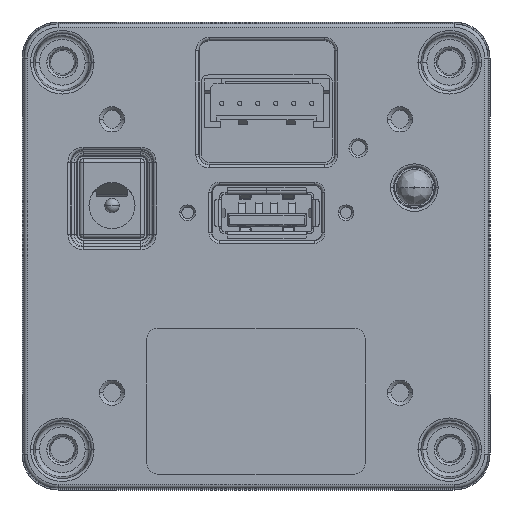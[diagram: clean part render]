
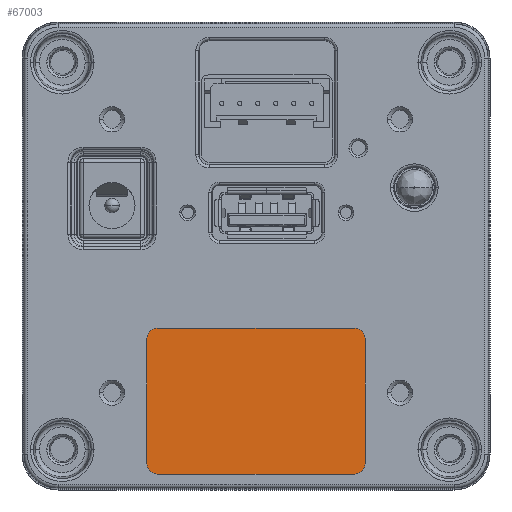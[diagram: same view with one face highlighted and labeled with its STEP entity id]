
A CAD part, front view. The second image highlights one B-rep face of the part: STEP entity #67003.
In plain terms, the highlighted planar face has unit normal (0, -1, 0).
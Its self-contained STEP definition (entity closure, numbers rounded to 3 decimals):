
#40695=CARTESIAN_POINT('',(13.65,-8.,-11.5));
#40696=DIRECTION('',(0.,-1.,0.));
#40697=DIRECTION('',(1.,0.,0.));
#40698=AXIS2_PLACEMENT_3D('',#40695,#40696,#40697);
#40703=DIRECTION('',(0.,0.,1.));
#40704=VECTOR('',#40703,17.3);
#40705=CARTESIAN_POINT('',(15.15,-8.,-28.8));
#40706=LINE('',#40705,#40704);
#40710=CARTESIAN_POINT('',(13.65,-8.,-28.8));
#40711=DIRECTION('',(0.,-1.,0.));
#40712=DIRECTION('',(0.,0.,-1.));
#40713=AXIS2_PLACEMENT_3D('',#40710,#40711,#40712);
#40718=DIRECTION('',(1.,0.,0.));
#40719=VECTOR('',#40718,27.3);
#40720=CARTESIAN_POINT('',(-13.65,-8.,-30.3));
#40721=LINE('',#40720,#40719);
#40725=CARTESIAN_POINT('',(-13.65,-8.,-28.8));
#40726=DIRECTION('',(0.,-1.,0.));
#40727=DIRECTION('',(-1.,0.,0.));
#40728=AXIS2_PLACEMENT_3D('',#40725,#40726,#40727);
#40733=DIRECTION('',(0.,0.,-1.));
#40734=VECTOR('',#40733,17.3);
#40735=CARTESIAN_POINT('',(-15.15,-8.,-11.5));
#40736=LINE('',#40735,#40734);
#40740=CARTESIAN_POINT('',(-13.65,-8.,-11.5));
#40741=DIRECTION('',(0.,-1.,0.));
#40742=DIRECTION('',(0.,0.,1.));
#40743=AXIS2_PLACEMENT_3D('',#40740,#40741,#40742);
#40748=DIRECTION('',(-1.,0.,0.));
#40749=VECTOR('',#40748,27.3);
#40750=CARTESIAN_POINT('',(13.65,-8.,-10.));
#40751=LINE('',#40750,#40749);
#41553=CARTESIAN_POINT('',(15.15,-8.,-11.5));
#41554=CARTESIAN_POINT('',(13.65,-8.,-10.));
#41555=VERTEX_POINT('',#41553);
#41556=VERTEX_POINT('',#41554);
#41561=CARTESIAN_POINT('',(-13.65,-8.,-10.));
#41562=CARTESIAN_POINT('',(-15.15,-8.,-11.5));
#41563=VERTEX_POINT('',#41561);
#41564=VERTEX_POINT('',#41562);
#41569=CARTESIAN_POINT('',(-15.15,-8.,-28.8));
#41570=CARTESIAN_POINT('',(-13.65,-8.,-30.3));
#41571=VERTEX_POINT('',#41569);
#41572=VERTEX_POINT('',#41570);
#41577=CARTESIAN_POINT('',(13.65,-8.,-30.3));
#41578=CARTESIAN_POINT('',(15.15,-8.,-28.8));
#41579=VERTEX_POINT('',#41577);
#41580=VERTEX_POINT('',#41578);
#66982=CARTESIAN_POINT('',(0.,-8.,0.));
#66983=DIRECTION('',(0.,-1.,0.));
#66984=DIRECTION('',(-1.,0.,0.));
#66985=AXIS2_PLACEMENT_3D('',#66982,#66983,#66984);
#66986=PLANE('',#66985);
#66987=ORIENTED_EDGE('',*,*,#66973,.F.);
#66989=ORIENTED_EDGE('',*,*,#66988,.F.);
#66991=ORIENTED_EDGE('',*,*,#66990,.F.);
#66993=ORIENTED_EDGE('',*,*,#66992,.F.);
#66995=ORIENTED_EDGE('',*,*,#66994,.F.);
#66997=ORIENTED_EDGE('',*,*,#66996,.F.);
#66999=ORIENTED_EDGE('',*,*,#66998,.F.);
#67000=ORIENTED_EDGE('',*,*,#66960,.F.);
#67001=EDGE_LOOP('',(#66987,#66989,#66991,#66993,#66995,#66997,#66999,#67000));
#67002=FACE_OUTER_BOUND('',#67001,.F.);
#67003=ADVANCED_FACE('',(#67002),#66986,.T.);
#40699=CIRCLE('',#40698,1.5);
#40714=CIRCLE('',#40713,1.5);
#40729=CIRCLE('',#40728,1.5);
#40744=CIRCLE('',#40743,1.5);
#66960=EDGE_CURVE('',#41556,#41563,#40751,.T.);
#66973=EDGE_CURVE('',#41555,#41556,#40699,.T.);
#66988=EDGE_CURVE('',#41580,#41555,#40706,.T.);
#66990=EDGE_CURVE('',#41579,#41580,#40714,.T.);
#66992=EDGE_CURVE('',#41572,#41579,#40721,.T.);
#66994=EDGE_CURVE('',#41571,#41572,#40729,.T.);
#66996=EDGE_CURVE('',#41564,#41571,#40736,.T.);
#66998=EDGE_CURVE('',#41563,#41564,#40744,.T.);
